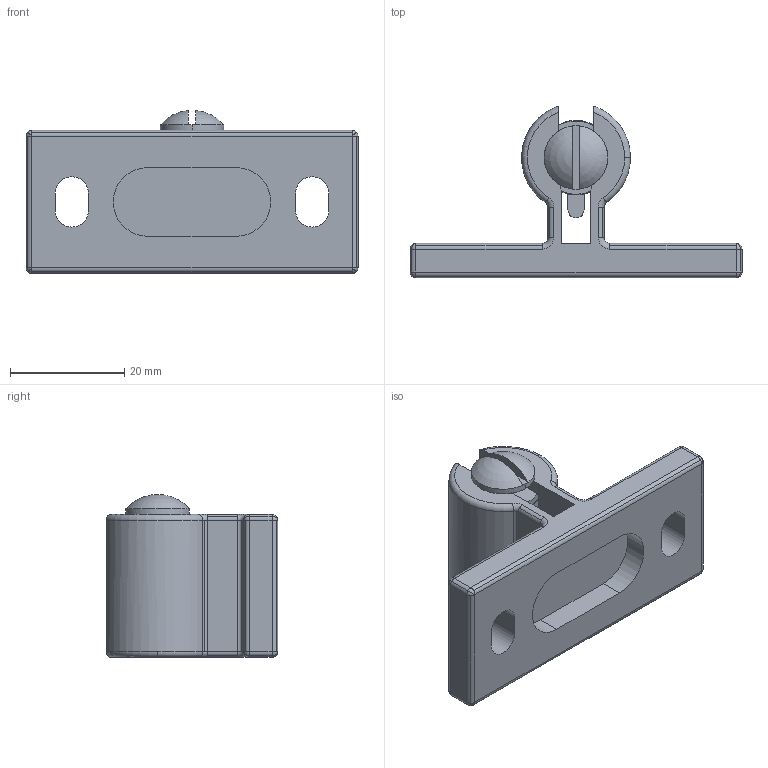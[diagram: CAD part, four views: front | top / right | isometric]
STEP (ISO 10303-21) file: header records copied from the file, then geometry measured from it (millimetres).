
FILE_DESCRIPTION (( 'STEP AP203' ), '1' );
FILE_NAME ('0555-002.STEP', '2025-01-23T16:47:07', ( '' ), ( '' ), 'SwSTEP 2.0', 'SolidWorks 2023', '' );
FILE_SCHEMA (( 'CONFIG_CONTROL_DESIGN' ));
Length unit declared in the file: millimetre
Products named in the file (1): 0555-002
Bounding box: 58 x 30 x 28.47 mm (x, y, z)
Surface area: 9166.4 mm2 (no closed solid volume)
Topology: 0 solids, 5 shells, 133 faces, 315 edges, 191 vertices
Faces by surface type: cylinder 65, plane 36, sphere 18, torus 14
Entity records: 3975 total; most frequent: DIRECTION 754, CARTESIAN_POINT 704, ORIENTED_EDGE 614, EDGE_CURVE 315, AXIS2_PLACEMENT_3D 309, VERTEX_POINT 191, CIRCLE 175, EDGE_LOOP 143
